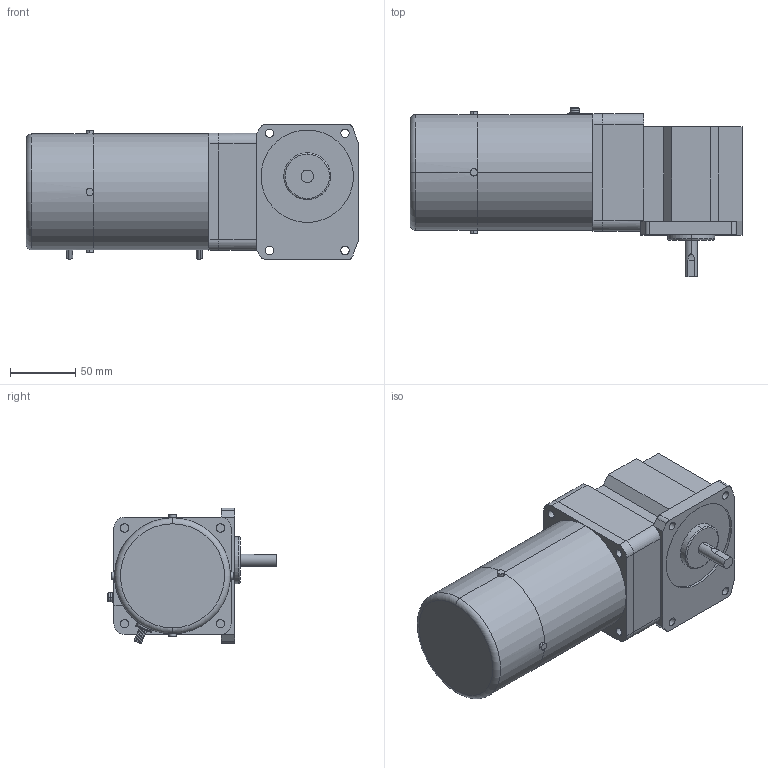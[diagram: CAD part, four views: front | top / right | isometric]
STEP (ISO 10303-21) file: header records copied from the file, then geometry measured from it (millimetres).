
FILE_DESCRIPTION(('starvars output'),'2;1');
FILE_NAME('5RK40GN-AW2MU _ 5GN75RAA.stp','14:12:09 2015/05/11',( 'Thomas Industrial Network Germany GmbH'),( 'Thomas Industrial Network Germany GmbH'),'unknown preprocess','ACIS' ,'unknown authorization');
FILE_SCHEMA(('AUTOMOTIVE_DESIGN_CC2 {UNKNOWN IMPLEMENTATION LEVEL}'));
Length unit declared in the file: millimetre
Products named in the file (1): PRODUCT_ID_2614
Bounding box: 255 x 130 x 104.23 mm (x, y, z)
Volume: 1687958.3 mm3; surface area: 101275.3 mm2
Topology: 1 solids, 1 shells, 165 faces, 400 edges, 264 vertices
Faces by surface type: cylinder 82, plane 73, torus 10
Entity records: 6178 total; most frequent: CARTESIAN_POINT 1160, ORIENTED_EDGE 800, DIRECTION 678, EDGE_CURVE 400, VERTEX_POINT 264, AXIS2_PLACEMENT_3D 238, VECTOR 202, LINE 202
